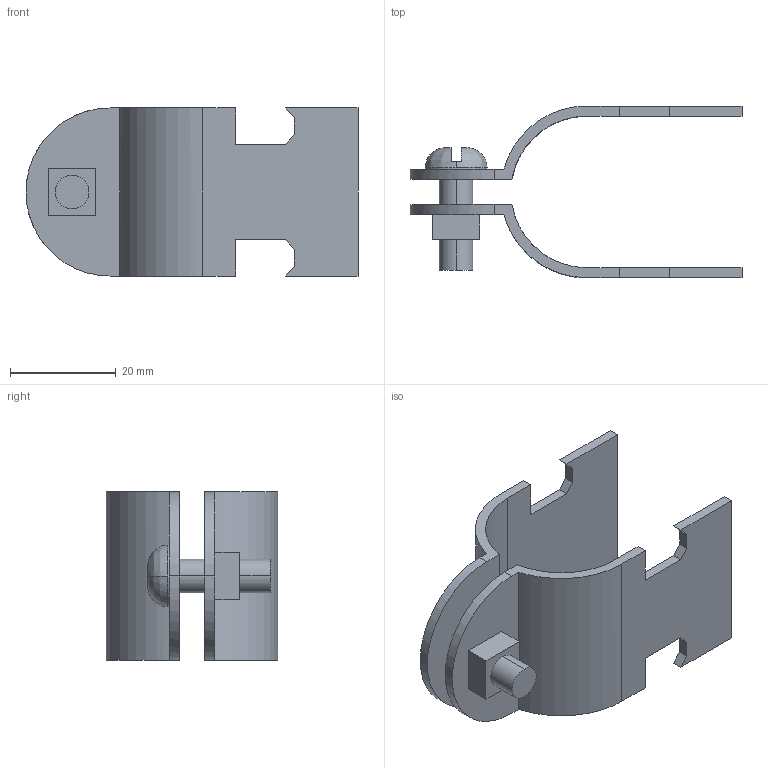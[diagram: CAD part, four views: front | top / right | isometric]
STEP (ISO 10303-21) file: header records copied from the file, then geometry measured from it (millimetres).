
FILE_DESCRIPTION(('TurboCAD Mac Pro'),'Build 980');
FILE_NAME('P2031.stp',' ',(''),(''),'ACIS Interop','IMSI','TurboCAD Mac Pro BY IMSI, INCORPORATED');
FILE_SCHEMA(('automotive_design'));
Length unit declared in the file: inch
Products named in the file (5): 1; 2; 3; 4; 5
Bounding box: 62.7 x 32.4 x 31.74 mm (x, y, z)
Volume: 8427 mm3; surface area: 9570 mm2
Topology: 4 solids, 4 shells, 75 faces, 194 edges, 128 vertices
Faces by surface type: plane 51, bspline 24
Entity records: 3647 total; most frequent: CARTESIAN_POINT 1154, ORIENTED_EDGE 388, DIRECTION 262, EDGE_CURVE 194, LINE 142, VECTOR 142, VERTEX_POINT 128, STYLED_ITEM 91
